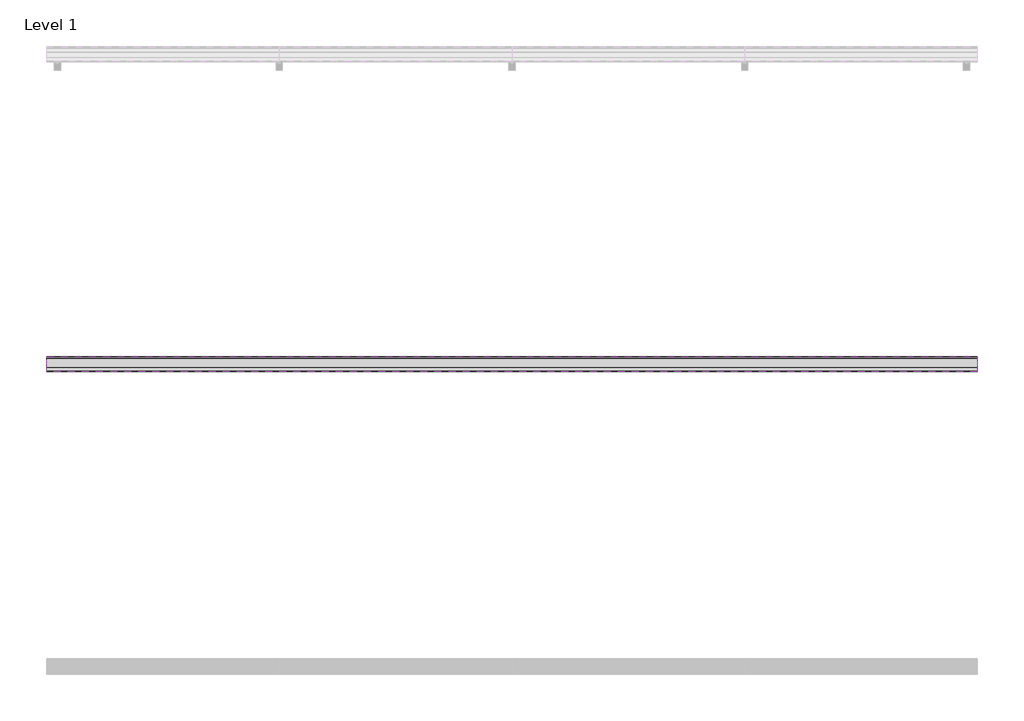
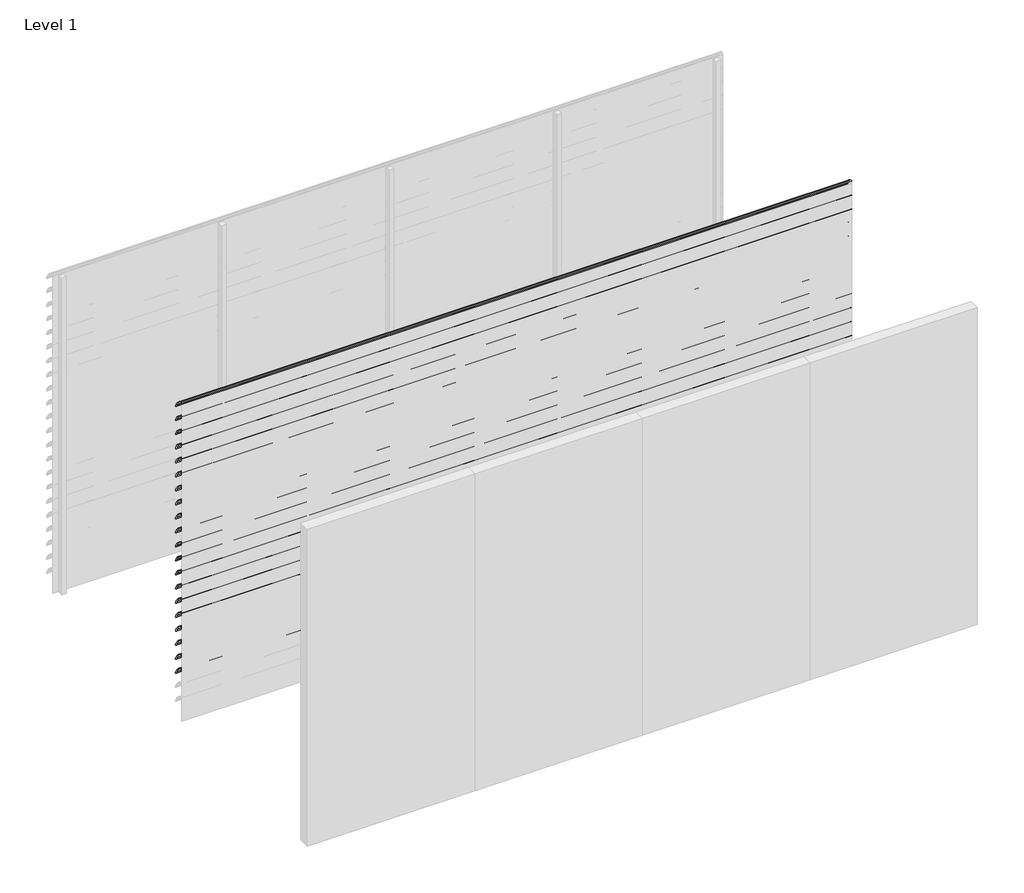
# One storey, part 25 of 57: 20 proxies.
"""IFC4 building model written with IfcOpenShell, lengths in millimetres."""

from ifc_helpers import new_model, si_unit, point, frame, frame_2d, origin, place, context, project, spatial, polyline, circle_curve, trimmed, segment, composite_curve, outline, extrude, element, save

model = new_model("IFC4")

# Units and contexts
model_context = context("Model", 3, world=origin())
ifc_project = project(units=[si_unit("LENGTHUNIT", "METRE", prefix="MILLI")], contexts=[model_context])

# Site, building, storey
site = spatial("IfcSite", under=ifc_project)
building = spatial("IfcBuilding", under=site)
storey = spatial("IfcBuildingStorey", under=building, Name="Level 1", Elevation=0.0)

# Proxies
placement = place(None, origin())
element("IfcBuildingElementProxy", 1, Name="Wall Sweeps", at=placement, inside=storey, context=model_context, shape_type="SweptSolid", body=[
    extrude(outline(composite_curve([segment(trimmed(circle_curve(frame_2d((-31993.7822526, 3016.4913792)), 4.2177474), [point((-31989.6985606, 3017.5462976))], [point((-31993.7822526, 3020.7091266))], False, "CARTESIAN"), True, "CONTINUOUS"), segment(trimmed(circle_curve(frame_2d((-32018.7150834, 2918.2536312)), 105.4456002), [point((-31993.7822526, 3020.7091266))], [point((-31971.7914298, 3012.6832099))], False, "CARTESIAN"), True, "CONTINUOUS"), segment(trimmed(circle_curve(frame_2d((-32061.7199745, 2864.0352476)), 173.7335887), [point((-31971.7914298, 3012.6832099))], [point((-31913.0720121, 2953.9637922))], False, "CARTESIAN"), True, "CONTINUOUS"), segment(trimmed(circle_curve(frame_2d((-32004.9297178, 2902.1860314)), 105.4456002), [point((-31913.0720121, 2953.9637922))], [point((-31903.6249616, 2931.4455765))], False, "CARTESIAN"), True, "CONTINUOUS"), segment(trimmed(circle_curve(frame_2d((-31907.809737, 2930.3307305)), 4.3307305), [point((-31903.6249616, 2931.4455765))], [point((-31909.0769196, 2926.189538))], False, "CARTESIAN"), True, "CONTINUOUS"), segment(polyline([(-31909.0769196, 2926.189538), (-31934.7401984, 2950.9722783)]), True, "CONTINUOUS"), segment(trimmed(circle_curve(frame_2d((-31931.3879574, 2953.2977626)), 4.079877), [point((-31934.7401984, 2950.9722783))], [point((-31930.7310597, 2957.3244091))], False, "CARTESIAN"), True, "CONTINUOUS"), segment(trimmed(circle_curve(frame_2d((-32014.6665585, 2935.2544323)), 86.7885467), [point((-31930.7310597, 2957.3244091))], [point((-31942.3028351, 2983.1683485))], True, "CARTESIAN"), True, "CONTINUOUS"), segment(polyline([(-31942.3028351, 2983.1683485), (-31940.7230099, 2985.9046861)]), True, "CONTINUOUS"), segment(trimmed(circle_curve(frame_2d((-32061.7199745, 2864.0352476)), 171.7335887), [point((-31940.7230099, 2985.9046861))], [point((-31972.7555872, 3010.9289618))], True, "CARTESIAN"), True, "CONTINUOUS"), segment(trimmed(circle_curve(frame_2d((-32018.7150834, 2918.2536312)), 103.4456002), [point((-31972.7555872, 3010.9289618))], [point((-31989.6985606, 3017.5462976))], True, "CARTESIAN"), True, "CONTINUOUS")], self_intersect=False)), frame((0.0, 0.0, 0.0), z_axis=(1.0, 0.0, 0.0), x_axis=(0.0, 1.0, 0.0)), (0.0, 0.0, 1.0), 6000.0),
])
element("IfcBuildingElementProxy", 2, Name="Wall Sweeps", at=placement, inside=storey, context=model_context, shape_type="SweptSolid", body=[
    extrude(outline(composite_curve([segment(trimmed(circle_curve(frame_2d((-31993.7822526, 2883.4913792)), 4.2177474), [point((-31989.6985606, 2884.5462976))], [point((-31993.7822526, 2887.7091266))], False, "CARTESIAN"), True, "CONTINUOUS"), segment(trimmed(circle_curve(frame_2d((-32018.7150834, 2785.2536312)), 105.4456002), [point((-31993.7822526, 2887.7091266))], [point((-31971.7914298, 2879.6832099))], False, "CARTESIAN"), True, "CONTINUOUS"), segment(trimmed(circle_curve(frame_2d((-32061.7199745, 2731.0352476)), 173.7335887), [point((-31971.7914298, 2879.6832099))], [point((-31913.0720121, 2820.9637922))], False, "CARTESIAN"), True, "CONTINUOUS"), segment(trimmed(circle_curve(frame_2d((-32004.9297178, 2769.1860314)), 105.4456002), [point((-31913.0720121, 2820.9637922))], [point((-31903.6249616, 2798.4455765))], False, "CARTESIAN"), True, "CONTINUOUS"), segment(trimmed(circle_curve(frame_2d((-31907.809737, 2797.3307305)), 4.3307305), [point((-31903.6249616, 2798.4455765))], [point((-31909.0769196, 2793.189538))], False, "CARTESIAN"), True, "CONTINUOUS"), segment(polyline([(-31909.0769196, 2793.189538), (-31934.7401984, 2817.9722783)]), True, "CONTINUOUS"), segment(trimmed(circle_curve(frame_2d((-31931.3879574, 2820.2977626)), 4.079877), [point((-31934.7401984, 2817.9722783))], [point((-31930.7310597, 2824.3244091))], False, "CARTESIAN"), True, "CONTINUOUS"), segment(trimmed(circle_curve(frame_2d((-32014.6665585, 2802.2544323)), 86.7885467), [point((-31930.7310597, 2824.3244091))], [point((-31942.3028351, 2850.1683485))], True, "CARTESIAN"), True, "CONTINUOUS"), segment(polyline([(-31942.3028351, 2850.1683485), (-31940.7230099, 2852.9046861)]), True, "CONTINUOUS"), segment(trimmed(circle_curve(frame_2d((-32061.7199745, 2731.0352476)), 171.7335887), [point((-31940.7230099, 2852.9046861))], [point((-31972.7555872, 2877.9289618))], True, "CARTESIAN"), True, "CONTINUOUS"), segment(trimmed(circle_curve(frame_2d((-32018.7150834, 2785.2536312)), 103.4456002), [point((-31972.7555872, 2877.9289618))], [point((-31989.6985606, 2884.5462976))], True, "CARTESIAN"), True, "CONTINUOUS")], self_intersect=False)), frame((0.0, 0.0, 0.0), z_axis=(1.0, 0.0, 0.0), x_axis=(0.0, 1.0, 0.0)), (0.0, 0.0, 1.0), 6000.0),
])
element("IfcBuildingElementProxy", 3, Name="Wall Sweeps", at=placement, inside=storey, context=model_context, shape_type="SweptSolid", body=[
    extrude(outline(composite_curve([segment(trimmed(circle_curve(frame_2d((-31993.7822526, 2750.4913792)), 4.2177474), [point((-31989.6985606, 2751.5462976))], [point((-31993.7822526, 2754.7091266))], False, "CARTESIAN"), True, "CONTINUOUS"), segment(trimmed(circle_curve(frame_2d((-32018.7150834, 2652.2536312)), 105.4456002), [point((-31993.7822526, 2754.7091266))], [point((-31971.7914298, 2746.6832099))], False, "CARTESIAN"), True, "CONTINUOUS"), segment(trimmed(circle_curve(frame_2d((-32061.7199745, 2598.0352476)), 173.7335887), [point((-31971.7914298, 2746.6832099))], [point((-31913.0720121, 2687.9637922))], False, "CARTESIAN"), True, "CONTINUOUS"), segment(trimmed(circle_curve(frame_2d((-32004.9297178, 2636.1860314)), 105.4456002), [point((-31913.0720121, 2687.9637922))], [point((-31903.6249616, 2665.4455765))], False, "CARTESIAN"), True, "CONTINUOUS"), segment(trimmed(circle_curve(frame_2d((-31907.809737, 2664.3307305)), 4.3307305), [point((-31903.6249616, 2665.4455765))], [point((-31909.0769196, 2660.189538))], False, "CARTESIAN"), True, "CONTINUOUS"), segment(polyline([(-31909.0769196, 2660.189538), (-31934.7401984, 2684.9722783)]), True, "CONTINUOUS"), segment(trimmed(circle_curve(frame_2d((-31931.3879574, 2687.2977626)), 4.079877), [point((-31934.7401984, 2684.9722783))], [point((-31930.7310597, 2691.3244091))], False, "CARTESIAN"), True, "CONTINUOUS"), segment(trimmed(circle_curve(frame_2d((-32014.6665585, 2669.2544323)), 86.7885467), [point((-31930.7310597, 2691.3244091))], [point((-31942.3028351, 2717.1683485))], True, "CARTESIAN"), True, "CONTINUOUS"), segment(polyline([(-31942.3028351, 2717.1683485), (-31940.7230099, 2719.9046861)]), True, "CONTINUOUS"), segment(trimmed(circle_curve(frame_2d((-32061.7199745, 2598.0352476)), 171.7335887), [point((-31940.7230099, 2719.9046861))], [point((-31972.7555872, 2744.9289618))], True, "CARTESIAN"), True, "CONTINUOUS"), segment(trimmed(circle_curve(frame_2d((-32018.7150834, 2652.2536312)), 103.4456002), [point((-31972.7555872, 2744.9289618))], [point((-31989.6985606, 2751.5462976))], True, "CARTESIAN"), True, "CONTINUOUS")], self_intersect=False)), frame((0.0, 0.0, 0.0), z_axis=(1.0, 0.0, 0.0), x_axis=(0.0, 1.0, 0.0)), (0.0, 0.0, 1.0), 6000.0),
])
element("IfcBuildingElementProxy", 4, Name="Wall Sweeps", at=placement, inside=storey, context=model_context, shape_type="SweptSolid", body=[
    extrude(outline(composite_curve([segment(trimmed(circle_curve(frame_2d((-31993.7822526, 2617.4913792)), 4.2177474), [point((-31989.6985606, 2618.5462976))], [point((-31993.7822526, 2621.7091266))], False, "CARTESIAN"), True, "CONTINUOUS"), segment(trimmed(circle_curve(frame_2d((-32018.7150834, 2519.2536312)), 105.4456002), [point((-31993.7822526, 2621.7091266))], [point((-31971.7914298, 2613.6832099))], False, "CARTESIAN"), True, "CONTINUOUS"), segment(trimmed(circle_curve(frame_2d((-32061.7199745, 2465.0352476)), 173.7335887), [point((-31971.7914298, 2613.6832099))], [point((-31913.0720121, 2554.9637922))], False, "CARTESIAN"), True, "CONTINUOUS"), segment(trimmed(circle_curve(frame_2d((-32004.9297178, 2503.1860314)), 105.4456002), [point((-31913.0720121, 2554.9637922))], [point((-31903.6249616, 2532.4455765))], False, "CARTESIAN"), True, "CONTINUOUS"), segment(trimmed(circle_curve(frame_2d((-31907.809737, 2531.3307305)), 4.3307305), [point((-31903.6249616, 2532.4455765))], [point((-31909.0769196, 2527.189538))], False, "CARTESIAN"), True, "CONTINUOUS"), segment(polyline([(-31909.0769196, 2527.189538), (-31934.7401984, 2551.9722783)]), True, "CONTINUOUS"), segment(trimmed(circle_curve(frame_2d((-31931.3879574, 2554.2977626)), 4.079877), [point((-31934.7401984, 2551.9722783))], [point((-31930.7310597, 2558.3244091))], False, "CARTESIAN"), True, "CONTINUOUS"), segment(trimmed(circle_curve(frame_2d((-32014.6665585, 2536.2544323)), 86.7885467), [point((-31930.7310597, 2558.3244091))], [point((-31942.3028351, 2584.1683485))], True, "CARTESIAN"), True, "CONTINUOUS"), segment(polyline([(-31942.3028351, 2584.1683485), (-31940.7230099, 2586.9046861)]), True, "CONTINUOUS"), segment(trimmed(circle_curve(frame_2d((-32061.7199745, 2465.0352476)), 171.7335887), [point((-31940.7230099, 2586.9046861))], [point((-31972.7555872, 2611.9289618))], True, "CARTESIAN"), True, "CONTINUOUS"), segment(trimmed(circle_curve(frame_2d((-32018.7150834, 2519.2536312)), 103.4456002), [point((-31972.7555872, 2611.9289618))], [point((-31989.6985606, 2618.5462976))], True, "CARTESIAN"), True, "CONTINUOUS")], self_intersect=False)), frame((0.0, 0.0, 0.0), z_axis=(1.0, 0.0, 0.0), x_axis=(0.0, 1.0, 0.0)), (0.0, 0.0, 1.0), 6000.0),
])
element("IfcBuildingElementProxy", 5, Name="Wall Sweeps", at=placement, inside=storey, context=model_context, shape_type="SweptSolid", body=[
    extrude(outline(composite_curve([segment(trimmed(circle_curve(frame_2d((-31993.7822526, 2484.4913792)), 4.2177474), [point((-31989.6985606, 2485.5462976))], [point((-31993.7822526, 2488.7091266))], False, "CARTESIAN"), True, "CONTINUOUS"), segment(trimmed(circle_curve(frame_2d((-32018.7150834, 2386.2536312)), 105.4456002), [point((-31993.7822526, 2488.7091266))], [point((-31971.7914298, 2480.6832099))], False, "CARTESIAN"), True, "CONTINUOUS"), segment(trimmed(circle_curve(frame_2d((-32061.7199745, 2332.0352476)), 173.7335887), [point((-31971.7914298, 2480.6832099))], [point((-31913.0720121, 2421.9637922))], False, "CARTESIAN"), True, "CONTINUOUS"), segment(trimmed(circle_curve(frame_2d((-32004.9297178, 2370.1860314)), 105.4456002), [point((-31913.0720121, 2421.9637922))], [point((-31903.6249616, 2399.4455765))], False, "CARTESIAN"), True, "CONTINUOUS"), segment(trimmed(circle_curve(frame_2d((-31907.809737, 2398.3307305)), 4.3307305), [point((-31903.6249616, 2399.4455765))], [point((-31909.0769196, 2394.189538))], False, "CARTESIAN"), True, "CONTINUOUS"), segment(polyline([(-31909.0769196, 2394.189538), (-31934.7401984, 2418.9722783)]), True, "CONTINUOUS"), segment(trimmed(circle_curve(frame_2d((-31931.3879574, 2421.2977626)), 4.079877), [point((-31934.7401984, 2418.9722783))], [point((-31930.7310597, 2425.3244091))], False, "CARTESIAN"), True, "CONTINUOUS"), segment(trimmed(circle_curve(frame_2d((-32014.6665585, 2403.2544323)), 86.7885467), [point((-31930.7310597, 2425.3244091))], [point((-31942.3028351, 2451.1683485))], True, "CARTESIAN"), True, "CONTINUOUS"), segment(polyline([(-31942.3028351, 2451.1683485), (-31940.7230099, 2453.9046861)]), True, "CONTINUOUS"), segment(trimmed(circle_curve(frame_2d((-32061.7199745, 2332.0352476)), 171.7335887), [point((-31940.7230099, 2453.9046861))], [point((-31972.7555872, 2478.9289618))], True, "CARTESIAN"), True, "CONTINUOUS"), segment(trimmed(circle_curve(frame_2d((-32018.7150834, 2386.2536312)), 103.4456002), [point((-31972.7555872, 2478.9289618))], [point((-31989.6985606, 2485.5462976))], True, "CARTESIAN"), True, "CONTINUOUS")], self_intersect=False)), frame((0.0, 0.0, 0.0), z_axis=(1.0, 0.0, 0.0), x_axis=(0.0, 1.0, 0.0)), (0.0, 0.0, 1.0), 6000.0),
])
element("IfcBuildingElementProxy", 6, Name="Wall Sweeps", at=placement, inside=storey, context=model_context, shape_type="SweptSolid", body=[
    extrude(outline(composite_curve([segment(trimmed(circle_curve(frame_2d((-31993.7822526, 2351.4913792)), 4.2177474), [point((-31989.6985606, 2352.5462976))], [point((-31993.7822526, 2355.7091266))], False, "CARTESIAN"), True, "CONTINUOUS"), segment(trimmed(circle_curve(frame_2d((-32018.7150834, 2253.2536312)), 105.4456002), [point((-31993.7822526, 2355.7091266))], [point((-31971.7914298, 2347.6832099))], False, "CARTESIAN"), True, "CONTINUOUS"), segment(trimmed(circle_curve(frame_2d((-32061.7199745, 2199.0352476)), 173.7335887), [point((-31971.7914298, 2347.6832099))], [point((-31913.0720121, 2288.9637922))], False, "CARTESIAN"), True, "CONTINUOUS"), segment(trimmed(circle_curve(frame_2d((-32004.9297178, 2237.1860314)), 105.4456002), [point((-31913.0720121, 2288.9637922))], [point((-31903.6249616, 2266.4455765))], False, "CARTESIAN"), True, "CONTINUOUS"), segment(trimmed(circle_curve(frame_2d((-31907.809737, 2265.3307305)), 4.3307305), [point((-31903.6249616, 2266.4455765))], [point((-31909.0769196, 2261.189538))], False, "CARTESIAN"), True, "CONTINUOUS"), segment(polyline([(-31909.0769196, 2261.189538), (-31934.7401984, 2285.9722783)]), True, "CONTINUOUS"), segment(trimmed(circle_curve(frame_2d((-31931.3879574, 2288.2977626)), 4.079877), [point((-31934.7401984, 2285.9722783))], [point((-31930.7310597, 2292.3244091))], False, "CARTESIAN"), True, "CONTINUOUS"), segment(trimmed(circle_curve(frame_2d((-32014.6665585, 2270.2544323)), 86.7885467), [point((-31930.7310597, 2292.3244091))], [point((-31942.3028351, 2318.1683485))], True, "CARTESIAN"), True, "CONTINUOUS"), segment(polyline([(-31942.3028351, 2318.1683485), (-31940.7230099, 2320.9046861)]), True, "CONTINUOUS"), segment(trimmed(circle_curve(frame_2d((-32061.7199745, 2199.0352476)), 171.7335887), [point((-31940.7230099, 2320.9046861))], [point((-31972.7555872, 2345.9289618))], True, "CARTESIAN"), True, "CONTINUOUS"), segment(trimmed(circle_curve(frame_2d((-32018.7150834, 2253.2536312)), 103.4456002), [point((-31972.7555872, 2345.9289618))], [point((-31989.6985606, 2352.5462976))], True, "CARTESIAN"), True, "CONTINUOUS")], self_intersect=False)), frame((0.0, 0.0, 0.0), z_axis=(1.0, 0.0, 0.0), x_axis=(0.0, 1.0, 0.0)), (0.0, 0.0, 1.0), 6000.0),
])
element("IfcBuildingElementProxy", 7, Name="Wall Sweeps", at=placement, inside=storey, context=model_context, shape_type="SweptSolid", body=[
    extrude(outline(composite_curve([segment(trimmed(circle_curve(frame_2d((-31993.7822526, 2218.4913792)), 4.2177474), [point((-31989.6985606, 2219.5462976))], [point((-31993.7822526, 2222.7091266))], False, "CARTESIAN"), True, "CONTINUOUS"), segment(trimmed(circle_curve(frame_2d((-32018.7150834, 2120.2536312)), 105.4456002), [point((-31993.7822526, 2222.7091266))], [point((-31971.7914298, 2214.6832099))], False, "CARTESIAN"), True, "CONTINUOUS"), segment(trimmed(circle_curve(frame_2d((-32061.7199745, 2066.0352476)), 173.7335887), [point((-31971.7914298, 2214.6832099))], [point((-31913.0720121, 2155.9637922))], False, "CARTESIAN"), True, "CONTINUOUS"), segment(trimmed(circle_curve(frame_2d((-32004.9297178, 2104.1860314)), 105.4456002), [point((-31913.0720121, 2155.9637922))], [point((-31903.6249616, 2133.4455765))], False, "CARTESIAN"), True, "CONTINUOUS"), segment(trimmed(circle_curve(frame_2d((-31907.809737, 2132.3307305)), 4.3307305), [point((-31903.6249616, 2133.4455765))], [point((-31909.0769196, 2128.189538))], False, "CARTESIAN"), True, "CONTINUOUS"), segment(polyline([(-31909.0769196, 2128.189538), (-31934.7401984, 2152.9722783)]), True, "CONTINUOUS"), segment(trimmed(circle_curve(frame_2d((-31931.3879574, 2155.2977626)), 4.079877), [point((-31934.7401984, 2152.9722783))], [point((-31930.7310597, 2159.3244091))], False, "CARTESIAN"), True, "CONTINUOUS"), segment(trimmed(circle_curve(frame_2d((-32014.6665585, 2137.2544323)), 86.7885467), [point((-31930.7310597, 2159.3244091))], [point((-31942.3028351, 2185.1683485))], True, "CARTESIAN"), True, "CONTINUOUS"), segment(polyline([(-31942.3028351, 2185.1683485), (-31940.7230099, 2187.9046861)]), True, "CONTINUOUS"), segment(trimmed(circle_curve(frame_2d((-32061.7199745, 2066.0352476)), 171.7335887), [point((-31940.7230099, 2187.9046861))], [point((-31972.7555872, 2212.9289618))], True, "CARTESIAN"), True, "CONTINUOUS"), segment(trimmed(circle_curve(frame_2d((-32018.7150834, 2120.2536312)), 103.4456002), [point((-31972.7555872, 2212.9289618))], [point((-31989.6985606, 2219.5462976))], True, "CARTESIAN"), True, "CONTINUOUS")], self_intersect=False)), frame((0.0, 0.0, 0.0), z_axis=(1.0, 0.0, 0.0), x_axis=(0.0, 1.0, 0.0)), (0.0, 0.0, 1.0), 6000.0),
])
element("IfcBuildingElementProxy", 8, Name="Wall Sweeps", at=placement, inside=storey, context=model_context, shape_type="SweptSolid", body=[
    extrude(outline(composite_curve([segment(trimmed(circle_curve(frame_2d((-31993.7822526, 2085.4913792)), 4.2177474), [point((-31989.6985606, 2086.5462976))], [point((-31993.7822526, 2089.7091266))], False, "CARTESIAN"), True, "CONTINUOUS"), segment(trimmed(circle_curve(frame_2d((-32018.7150834, 1987.2536312)), 105.4456002), [point((-31993.7822526, 2089.7091266))], [point((-31971.7914298, 2081.6832099))], False, "CARTESIAN"), True, "CONTINUOUS"), segment(trimmed(circle_curve(frame_2d((-32061.7199745, 1933.0352476)), 173.7335887), [point((-31971.7914298, 2081.6832099))], [point((-31913.0720121, 2022.9637922))], False, "CARTESIAN"), True, "CONTINUOUS"), segment(trimmed(circle_curve(frame_2d((-32004.9297178, 1971.1860314)), 105.4456002), [point((-31913.0720121, 2022.9637922))], [point((-31903.6249616, 2000.4455765))], False, "CARTESIAN"), True, "CONTINUOUS"), segment(trimmed(circle_curve(frame_2d((-31907.809737, 1999.3307305)), 4.3307305), [point((-31903.6249616, 2000.4455765))], [point((-31909.0769196, 1995.189538))], False, "CARTESIAN"), True, "CONTINUOUS"), segment(polyline([(-31909.0769196, 1995.189538), (-31934.7401984, 2019.9722783)]), True, "CONTINUOUS"), segment(trimmed(circle_curve(frame_2d((-31931.3879574, 2022.2977626)), 4.079877), [point((-31934.7401984, 2019.9722783))], [point((-31930.7310597, 2026.3244091))], False, "CARTESIAN"), True, "CONTINUOUS"), segment(trimmed(circle_curve(frame_2d((-32014.6665585, 2004.2544323)), 86.7885467), [point((-31930.7310597, 2026.3244091))], [point((-31942.3028351, 2052.1683485))], True, "CARTESIAN"), True, "CONTINUOUS"), segment(polyline([(-31942.3028351, 2052.1683485), (-31940.7230099, 2054.9046861)]), True, "CONTINUOUS"), segment(trimmed(circle_curve(frame_2d((-32061.7199745, 1933.0352476)), 171.7335887), [point((-31940.7230099, 2054.9046861))], [point((-31972.7555872, 2079.9289618))], True, "CARTESIAN"), True, "CONTINUOUS"), segment(trimmed(circle_curve(frame_2d((-32018.7150834, 1987.2536312)), 103.4456002), [point((-31972.7555872, 2079.9289618))], [point((-31989.6985606, 2086.5462976))], True, "CARTESIAN"), True, "CONTINUOUS")], self_intersect=False)), frame((0.0, 0.0, 0.0), z_axis=(1.0, 0.0, 0.0), x_axis=(0.0, 1.0, 0.0)), (0.0, 0.0, 1.0), 6000.0),
])
element("IfcBuildingElementProxy", 9, Name="Wall Sweeps", at=placement, inside=storey, context=model_context, shape_type="SweptSolid", body=[
    extrude(outline(composite_curve([segment(trimmed(circle_curve(frame_2d((-31993.7822526, 1952.4913792)), 4.2177474), [point((-31989.6985606, 1953.5462976))], [point((-31993.7822526, 1956.7091266))], False, "CARTESIAN"), True, "CONTINUOUS"), segment(trimmed(circle_curve(frame_2d((-32018.7150834, 1854.2536312)), 105.4456002), [point((-31993.7822526, 1956.7091266))], [point((-31971.7914298, 1948.6832099))], False, "CARTESIAN"), True, "CONTINUOUS"), segment(trimmed(circle_curve(frame_2d((-32061.7199745, 1800.0352476)), 173.7335887), [point((-31971.7914298, 1948.6832099))], [point((-31913.0720121, 1889.9637922))], False, "CARTESIAN"), True, "CONTINUOUS"), segment(trimmed(circle_curve(frame_2d((-32004.9297178, 1838.1860314)), 105.4456002), [point((-31913.0720121, 1889.9637922))], [point((-31903.6249616, 1867.4455765))], False, "CARTESIAN"), True, "CONTINUOUS"), segment(trimmed(circle_curve(frame_2d((-31907.809737, 1866.3307305)), 4.3307305), [point((-31903.6249616, 1867.4455765))], [point((-31909.0769196, 1862.189538))], False, "CARTESIAN"), True, "CONTINUOUS"), segment(polyline([(-31909.0769196, 1862.189538), (-31934.7401984, 1886.9722783)]), True, "CONTINUOUS"), segment(trimmed(circle_curve(frame_2d((-31931.3879574, 1889.2977626)), 4.079877), [point((-31934.7401984, 1886.9722783))], [point((-31930.7310597, 1893.3244091))], False, "CARTESIAN"), True, "CONTINUOUS"), segment(trimmed(circle_curve(frame_2d((-32014.6665585, 1871.2544323)), 86.7885467), [point((-31930.7310597, 1893.3244091))], [point((-31942.3028351, 1919.1683485))], True, "CARTESIAN"), True, "CONTINUOUS"), segment(polyline([(-31942.3028351, 1919.1683485), (-31940.7230099, 1921.9046861)]), True, "CONTINUOUS"), segment(trimmed(circle_curve(frame_2d((-32061.7199745, 1800.0352476)), 171.7335887), [point((-31940.7230099, 1921.9046861))], [point((-31972.7555872, 1946.9289618))], True, "CARTESIAN"), True, "CONTINUOUS"), segment(trimmed(circle_curve(frame_2d((-32018.7150834, 1854.2536312)), 103.4456002), [point((-31972.7555872, 1946.9289618))], [point((-31989.6985606, 1953.5462976))], True, "CARTESIAN"), True, "CONTINUOUS")], self_intersect=False)), frame((0.0, 0.0, 0.0), z_axis=(1.0, 0.0, 0.0), x_axis=(0.0, 1.0, 0.0)), (0.0, 0.0, 1.0), 6000.0),
])
element("IfcBuildingElementProxy", 10, Name="Wall Sweeps", at=placement, inside=storey, context=model_context, shape_type="SweptSolid", body=[
    extrude(outline(composite_curve([segment(trimmed(circle_curve(frame_2d((-31993.7822526, 1819.4913792)), 4.2177474), [point((-31989.6985606, 1820.5462976))], [point((-31993.7822526, 1823.7091266))], False, "CARTESIAN"), True, "CONTINUOUS"), segment(trimmed(circle_curve(frame_2d((-32018.7150834, 1721.2536312)), 105.4456002), [point((-31993.7822526, 1823.7091266))], [point((-31971.7914298, 1815.6832099))], False, "CARTESIAN"), True, "CONTINUOUS"), segment(trimmed(circle_curve(frame_2d((-32061.7199745, 1667.0352476)), 173.7335887), [point((-31971.7914298, 1815.6832099))], [point((-31913.0720121, 1756.9637922))], False, "CARTESIAN"), True, "CONTINUOUS"), segment(trimmed(circle_curve(frame_2d((-32004.9297178, 1705.1860314)), 105.4456002), [point((-31913.0720121, 1756.9637922))], [point((-31903.6249616, 1734.4455765))], False, "CARTESIAN"), True, "CONTINUOUS"), segment(trimmed(circle_curve(frame_2d((-31907.809737, 1733.3307305)), 4.3307305), [point((-31903.6249616, 1734.4455765))], [point((-31909.0769196, 1729.189538))], False, "CARTESIAN"), True, "CONTINUOUS"), segment(polyline([(-31909.0769196, 1729.189538), (-31934.7401984, 1753.9722783)]), True, "CONTINUOUS"), segment(trimmed(circle_curve(frame_2d((-31931.3879574, 1756.2977626)), 4.079877), [point((-31934.7401984, 1753.9722783))], [point((-31930.7310597, 1760.3244091))], False, "CARTESIAN"), True, "CONTINUOUS"), segment(trimmed(circle_curve(frame_2d((-32014.6665585, 1738.2544323)), 86.7885467), [point((-31930.7310597, 1760.3244091))], [point((-31942.3028351, 1786.1683485))], True, "CARTESIAN"), True, "CONTINUOUS"), segment(polyline([(-31942.3028351, 1786.1683485), (-31940.7230099, 1788.9046861)]), True, "CONTINUOUS"), segment(trimmed(circle_curve(frame_2d((-32061.7199745, 1667.0352476)), 171.7335887), [point((-31940.7230099, 1788.9046861))], [point((-31972.7555872, 1813.9289618))], True, "CARTESIAN"), True, "CONTINUOUS"), segment(trimmed(circle_curve(frame_2d((-32018.7150834, 1721.2536312)), 103.4456002), [point((-31972.7555872, 1813.9289618))], [point((-31989.6985606, 1820.5462976))], True, "CARTESIAN"), True, "CONTINUOUS")], self_intersect=False)), frame((0.0, 0.0, 0.0), z_axis=(1.0, 0.0, 0.0), x_axis=(0.0, 1.0, 0.0)), (0.0, 0.0, 1.0), 6000.0),
])
element("IfcBuildingElementProxy", 11, Name="Wall Sweeps", at=placement, inside=storey, context=model_context, shape_type="SweptSolid", body=[
    extrude(outline(composite_curve([segment(trimmed(circle_curve(frame_2d((-31993.7822526, 1686.4913792)), 4.2177474), [point((-31989.6985606, 1687.5462976))], [point((-31993.7822526, 1690.7091266))], False, "CARTESIAN"), True, "CONTINUOUS"), segment(trimmed(circle_curve(frame_2d((-32018.7150834, 1588.2536312)), 105.4456002), [point((-31993.7822526, 1690.7091266))], [point((-31971.7914298, 1682.6832099))], False, "CARTESIAN"), True, "CONTINUOUS"), segment(trimmed(circle_curve(frame_2d((-32061.7199745, 1534.0352476)), 173.7335887), [point((-31971.7914298, 1682.6832099))], [point((-31913.0720121, 1623.9637922))], False, "CARTESIAN"), True, "CONTINUOUS"), segment(trimmed(circle_curve(frame_2d((-32004.9297178, 1572.1860314)), 105.4456002), [point((-31913.0720121, 1623.9637922))], [point((-31903.6249616, 1601.4455765))], False, "CARTESIAN"), True, "CONTINUOUS"), segment(trimmed(circle_curve(frame_2d((-31907.809737, 1600.3307305)), 4.3307305), [point((-31903.6249616, 1601.4455765))], [point((-31909.0769196, 1596.189538))], False, "CARTESIAN"), True, "CONTINUOUS"), segment(polyline([(-31909.0769196, 1596.189538), (-31934.7401984, 1620.9722783)]), True, "CONTINUOUS"), segment(trimmed(circle_curve(frame_2d((-31931.3879574, 1623.2977626)), 4.079877), [point((-31934.7401984, 1620.9722783))], [point((-31930.7310597, 1627.3244091))], False, "CARTESIAN"), True, "CONTINUOUS"), segment(trimmed(circle_curve(frame_2d((-32014.6665585, 1605.2544323)), 86.7885467), [point((-31930.7310597, 1627.3244091))], [point((-31942.3028351, 1653.1683485))], True, "CARTESIAN"), True, "CONTINUOUS"), segment(polyline([(-31942.3028351, 1653.1683485), (-31940.7230099, 1655.9046861)]), True, "CONTINUOUS"), segment(trimmed(circle_curve(frame_2d((-32061.7199745, 1534.0352476)), 171.7335887), [point((-31940.7230099, 1655.9046861))], [point((-31972.7555872, 1680.9289618))], True, "CARTESIAN"), True, "CONTINUOUS"), segment(trimmed(circle_curve(frame_2d((-32018.7150834, 1588.2536312)), 103.4456002), [point((-31972.7555872, 1680.9289618))], [point((-31989.6985606, 1687.5462976))], True, "CARTESIAN"), True, "CONTINUOUS")], self_intersect=False)), frame((0.0, 0.0, 0.0), z_axis=(1.0, 0.0, 0.0), x_axis=(0.0, 1.0, 0.0)), (0.0, 0.0, 1.0), 6000.0),
])
element("IfcBuildingElementProxy", 12, Name="Wall Sweeps", at=placement, inside=storey, context=model_context, shape_type="SweptSolid", body=[
    extrude(outline(composite_curve([segment(trimmed(circle_curve(frame_2d((-31993.7822526, 1553.4913792)), 4.2177474), [point((-31989.6985606, 1554.5462976))], [point((-31993.7822526, 1557.7091266))], False, "CARTESIAN"), True, "CONTINUOUS"), segment(trimmed(circle_curve(frame_2d((-32018.7150834, 1455.2536312)), 105.4456002), [point((-31993.7822526, 1557.7091266))], [point((-31971.7914298, 1549.6832099))], False, "CARTESIAN"), True, "CONTINUOUS"), segment(trimmed(circle_curve(frame_2d((-32061.7199745, 1401.0352476)), 173.7335887), [point((-31971.7914298, 1549.6832099))], [point((-31913.0720121, 1490.9637922))], False, "CARTESIAN"), True, "CONTINUOUS"), segment(trimmed(circle_curve(frame_2d((-32004.9297178, 1439.1860314)), 105.4456002), [point((-31913.0720121, 1490.9637922))], [point((-31903.6249616, 1468.4455765))], False, "CARTESIAN"), True, "CONTINUOUS"), segment(trimmed(circle_curve(frame_2d((-31907.809737, 1467.3307305)), 4.3307305), [point((-31903.6249616, 1468.4455765))], [point((-31909.0769196, 1463.189538))], False, "CARTESIAN"), True, "CONTINUOUS"), segment(polyline([(-31909.0769196, 1463.189538), (-31934.7401984, 1487.9722783)]), True, "CONTINUOUS"), segment(trimmed(circle_curve(frame_2d((-31931.3879574, 1490.2977626)), 4.079877), [point((-31934.7401984, 1487.9722783))], [point((-31930.7310597, 1494.3244091))], False, "CARTESIAN"), True, "CONTINUOUS"), segment(trimmed(circle_curve(frame_2d((-32014.6665585, 1472.2544323)), 86.7885467), [point((-31930.7310597, 1494.3244091))], [point((-31942.3028351, 1520.1683485))], True, "CARTESIAN"), True, "CONTINUOUS"), segment(polyline([(-31942.3028351, 1520.1683485), (-31940.7230099, 1522.9046861)]), True, "CONTINUOUS"), segment(trimmed(circle_curve(frame_2d((-32061.7199745, 1401.0352476)), 171.7335887), [point((-31940.7230099, 1522.9046861))], [point((-31972.7555872, 1547.9289618))], True, "CARTESIAN"), True, "CONTINUOUS"), segment(trimmed(circle_curve(frame_2d((-32018.7150834, 1455.2536312)), 103.4456002), [point((-31972.7555872, 1547.9289618))], [point((-31989.6985606, 1554.5462976))], True, "CARTESIAN"), True, "CONTINUOUS")], self_intersect=False)), frame((0.0, 0.0, 0.0), z_axis=(1.0, 0.0, 0.0), x_axis=(0.0, 1.0, 0.0)), (0.0, 0.0, 1.0), 6000.0),
])
element("IfcBuildingElementProxy", 13, Name="Wall Sweeps", at=placement, inside=storey, context=model_context, shape_type="SweptSolid", body=[
    extrude(outline(composite_curve([segment(trimmed(circle_curve(frame_2d((-31993.7822526, 1420.4913792)), 4.2177474), [point((-31989.6985606, 1421.5462976))], [point((-31993.7822526, 1424.7091266))], False, "CARTESIAN"), True, "CONTINUOUS"), segment(trimmed(circle_curve(frame_2d((-32018.7150834, 1322.2536312)), 105.4456002), [point((-31993.7822526, 1424.7091266))], [point((-31971.7914298, 1416.6832099))], False, "CARTESIAN"), True, "CONTINUOUS"), segment(trimmed(circle_curve(frame_2d((-32061.7199745, 1268.0352476)), 173.7335887), [point((-31971.7914298, 1416.6832099))], [point((-31913.0720121, 1357.9637922))], False, "CARTESIAN"), True, "CONTINUOUS"), segment(trimmed(circle_curve(frame_2d((-32004.9297178, 1306.1860314)), 105.4456002), [point((-31913.0720121, 1357.9637922))], [point((-31903.6249616, 1335.4455765))], False, "CARTESIAN"), True, "CONTINUOUS"), segment(trimmed(circle_curve(frame_2d((-31907.809737, 1334.3307305)), 4.3307305), [point((-31903.6249616, 1335.4455765))], [point((-31909.0769196, 1330.189538))], False, "CARTESIAN"), True, "CONTINUOUS"), segment(polyline([(-31909.0769196, 1330.189538), (-31934.7401984, 1354.9722783)]), True, "CONTINUOUS"), segment(trimmed(circle_curve(frame_2d((-31931.3879574, 1357.2977626)), 4.079877), [point((-31934.7401984, 1354.9722783))], [point((-31930.7310597, 1361.3244091))], False, "CARTESIAN"), True, "CONTINUOUS"), segment(trimmed(circle_curve(frame_2d((-32014.6665585, 1339.2544323)), 86.7885467), [point((-31930.7310597, 1361.3244091))], [point((-31942.3028351, 1387.1683485))], True, "CARTESIAN"), True, "CONTINUOUS"), segment(polyline([(-31942.3028351, 1387.1683485), (-31940.7230099, 1389.9046861)]), True, "CONTINUOUS"), segment(trimmed(circle_curve(frame_2d((-32061.7199745, 1268.0352476)), 171.7335887), [point((-31940.7230099, 1389.9046861))], [point((-31972.7555872, 1414.9289618))], True, "CARTESIAN"), True, "CONTINUOUS"), segment(trimmed(circle_curve(frame_2d((-32018.7150834, 1322.2536312)), 103.4456002), [point((-31972.7555872, 1414.9289618))], [point((-31989.6985606, 1421.5462976))], True, "CARTESIAN"), True, "CONTINUOUS")], self_intersect=False)), frame((0.0, 0.0, 0.0), z_axis=(1.0, 0.0, 0.0), x_axis=(0.0, 1.0, 0.0)), (0.0, 0.0, 1.0), 6000.0),
])
element("IfcBuildingElementProxy", 14, Name="Wall Sweeps", at=placement, inside=storey, context=model_context, shape_type="SweptSolid", body=[
    extrude(outline(composite_curve([segment(trimmed(circle_curve(frame_2d((-31993.7822526, 1287.4913792)), 4.2177474), [point((-31989.6985606, 1288.5462976))], [point((-31993.7822526, 1291.7091266))], False, "CARTESIAN"), True, "CONTINUOUS"), segment(trimmed(circle_curve(frame_2d((-32018.7150834, 1189.2536312)), 105.4456002), [point((-31993.7822526, 1291.7091266))], [point((-31971.7914298, 1283.6832099))], False, "CARTESIAN"), True, "CONTINUOUS"), segment(trimmed(circle_curve(frame_2d((-32061.7199745, 1135.0352476)), 173.7335887), [point((-31971.7914298, 1283.6832099))], [point((-31913.0720121, 1224.9637922))], False, "CARTESIAN"), True, "CONTINUOUS"), segment(trimmed(circle_curve(frame_2d((-32004.9297178, 1173.1860314)), 105.4456002), [point((-31913.0720121, 1224.9637922))], [point((-31903.6249616, 1202.4455765))], False, "CARTESIAN"), True, "CONTINUOUS"), segment(trimmed(circle_curve(frame_2d((-31907.809737, 1201.3307305)), 4.3307305), [point((-31903.6249616, 1202.4455765))], [point((-31909.0769196, 1197.189538))], False, "CARTESIAN"), True, "CONTINUOUS"), segment(polyline([(-31909.0769196, 1197.189538), (-31934.7401984, 1221.9722783)]), True, "CONTINUOUS"), segment(trimmed(circle_curve(frame_2d((-31931.3879574, 1224.2977626)), 4.079877), [point((-31934.7401984, 1221.9722783))], [point((-31930.7310597, 1228.3244091))], False, "CARTESIAN"), True, "CONTINUOUS"), segment(trimmed(circle_curve(frame_2d((-32014.6665585, 1206.2544323)), 86.7885467), [point((-31930.7310597, 1228.3244091))], [point((-31942.3028351, 1254.1683485))], True, "CARTESIAN"), True, "CONTINUOUS"), segment(polyline([(-31942.3028351, 1254.1683485), (-31940.7230099, 1256.9046861)]), True, "CONTINUOUS"), segment(trimmed(circle_curve(frame_2d((-32061.7199745, 1135.0352476)), 171.7335887), [point((-31940.7230099, 1256.9046861))], [point((-31972.7555872, 1281.9289618))], True, "CARTESIAN"), True, "CONTINUOUS"), segment(trimmed(circle_curve(frame_2d((-32018.7150834, 1189.2536312)), 103.4456002), [point((-31972.7555872, 1281.9289618))], [point((-31989.6985606, 1288.5462976))], True, "CARTESIAN"), True, "CONTINUOUS")], self_intersect=False)), frame((0.0, 0.0, 0.0), z_axis=(1.0, 0.0, 0.0), x_axis=(0.0, 1.0, 0.0)), (0.0, 0.0, 1.0), 6000.0),
])
element("IfcBuildingElementProxy", 15, Name="Wall Sweeps", at=placement, inside=storey, context=model_context, shape_type="SweptSolid", body=[
    extrude(outline(composite_curve([segment(trimmed(circle_curve(frame_2d((-31993.7822526, 1154.4913792)), 4.2177474), [point((-31989.6985606, 1155.5462976))], [point((-31993.7822526, 1158.7091266))], False, "CARTESIAN"), True, "CONTINUOUS"), segment(trimmed(circle_curve(frame_2d((-32018.7150834, 1056.2536312)), 105.4456002), [point((-31993.7822526, 1158.7091266))], [point((-31971.7914298, 1150.6832099))], False, "CARTESIAN"), True, "CONTINUOUS"), segment(trimmed(circle_curve(frame_2d((-32061.7199745, 1002.0352476)), 173.7335887), [point((-31971.7914298, 1150.6832099))], [point((-31913.0720121, 1091.9637922))], False, "CARTESIAN"), True, "CONTINUOUS"), segment(trimmed(circle_curve(frame_2d((-32004.9297178, 1040.1860314)), 105.4456002), [point((-31913.0720121, 1091.9637922))], [point((-31903.6249616, 1069.4455765))], False, "CARTESIAN"), True, "CONTINUOUS"), segment(trimmed(circle_curve(frame_2d((-31907.809737, 1068.3307305)), 4.3307305), [point((-31903.6249616, 1069.4455765))], [point((-31909.0769196, 1064.189538))], False, "CARTESIAN"), True, "CONTINUOUS"), segment(polyline([(-31909.0769196, 1064.189538), (-31934.7401984, 1088.9722783)]), True, "CONTINUOUS"), segment(trimmed(circle_curve(frame_2d((-31931.3879574, 1091.2977626)), 4.079877), [point((-31934.7401984, 1088.9722783))], [point((-31930.7310597, 1095.3244091))], False, "CARTESIAN"), True, "CONTINUOUS"), segment(trimmed(circle_curve(frame_2d((-32014.6665585, 1073.2544323)), 86.7885467), [point((-31930.7310597, 1095.3244091))], [point((-31942.3028351, 1121.1683485))], True, "CARTESIAN"), True, "CONTINUOUS"), segment(polyline([(-31942.3028351, 1121.1683485), (-31940.7230099, 1123.9046861)]), True, "CONTINUOUS"), segment(trimmed(circle_curve(frame_2d((-32061.7199745, 1002.0352476)), 171.7335887), [point((-31940.7230099, 1123.9046861))], [point((-31972.7555872, 1148.9289618))], True, "CARTESIAN"), True, "CONTINUOUS"), segment(trimmed(circle_curve(frame_2d((-32018.7150834, 1056.2536312)), 103.4456002), [point((-31972.7555872, 1148.9289618))], [point((-31989.6985606, 1155.5462976))], True, "CARTESIAN"), True, "CONTINUOUS")], self_intersect=False)), frame((0.0, 0.0, 0.0), z_axis=(1.0, 0.0, 0.0), x_axis=(0.0, 1.0, 0.0)), (0.0, 0.0, 1.0), 6000.0),
])
element("IfcBuildingElementProxy", 16, Name="Wall Sweeps", at=placement, inside=storey, context=model_context, shape_type="SweptSolid", body=[
    extrude(outline(composite_curve([segment(trimmed(circle_curve(frame_2d((-31993.7822526, 1021.4913792)), 4.2177474), [point((-31989.6985606, 1022.5462976))], [point((-31993.7822526, 1025.7091266))], False, "CARTESIAN"), True, "CONTINUOUS"), segment(trimmed(circle_curve(frame_2d((-32018.7150834, 923.2536312)), 105.4456002), [point((-31993.7822526, 1025.7091266))], [point((-31971.7914298, 1017.6832099))], False, "CARTESIAN"), True, "CONTINUOUS"), segment(trimmed(circle_curve(frame_2d((-32061.7199745, 869.0352476)), 173.7335887), [point((-31971.7914298, 1017.6832099))], [point((-31913.0720121, 958.9637922))], False, "CARTESIAN"), True, "CONTINUOUS"), segment(trimmed(circle_curve(frame_2d((-32004.9297178, 907.1860314)), 105.4456002), [point((-31913.0720121, 958.9637922))], [point((-31903.6249616, 936.4455765))], False, "CARTESIAN"), True, "CONTINUOUS"), segment(trimmed(circle_curve(frame_2d((-31907.809737, 935.3307305)), 4.3307305), [point((-31903.6249616, 936.4455765))], [point((-31909.0769196, 931.189538))], False, "CARTESIAN"), True, "CONTINUOUS"), segment(polyline([(-31909.0769196, 931.189538), (-31934.7401984, 955.9722783)]), True, "CONTINUOUS"), segment(trimmed(circle_curve(frame_2d((-31931.3879574, 958.2977626)), 4.079877), [point((-31934.7401984, 955.9722783))], [point((-31930.7310597, 962.3244091))], False, "CARTESIAN"), True, "CONTINUOUS"), segment(trimmed(circle_curve(frame_2d((-32014.6665585, 940.2544323)), 86.7885467), [point((-31930.7310597, 962.3244091))], [point((-31942.3028351, 988.1683485))], True, "CARTESIAN"), True, "CONTINUOUS"), segment(polyline([(-31942.3028351, 988.1683485), (-31940.7230099, 990.9046861)]), True, "CONTINUOUS"), segment(trimmed(circle_curve(frame_2d((-32061.7199745, 869.0352476)), 171.7335887), [point((-31940.7230099, 990.9046861))], [point((-31972.7555872, 1015.9289618))], True, "CARTESIAN"), True, "CONTINUOUS"), segment(trimmed(circle_curve(frame_2d((-32018.7150834, 923.2536312)), 103.4456002), [point((-31972.7555872, 1015.9289618))], [point((-31989.6985606, 1022.5462976))], True, "CARTESIAN"), True, "CONTINUOUS")], self_intersect=False)), frame((0.0, 0.0, 0.0), z_axis=(1.0, 0.0, 0.0), x_axis=(0.0, 1.0, 0.0)), (0.0, 0.0, 1.0), 6000.0),
])
element("IfcBuildingElementProxy", 17, Name="Wall Sweeps", at=placement, inside=storey, context=model_context, shape_type="SweptSolid", body=[
    extrude(outline(composite_curve([segment(trimmed(circle_curve(frame_2d((-31993.7822526, 888.4913792)), 4.2177474), [point((-31989.6985606, 889.5462976))], [point((-31993.7822526, 892.7091266))], False, "CARTESIAN"), True, "CONTINUOUS"), segment(trimmed(circle_curve(frame_2d((-32018.7150834, 790.2536312)), 105.4456002), [point((-31993.7822526, 892.7091266))], [point((-31971.7914298, 884.6832099))], False, "CARTESIAN"), True, "CONTINUOUS"), segment(trimmed(circle_curve(frame_2d((-32061.7199745, 736.0352476)), 173.7335887), [point((-31971.7914298, 884.6832099))], [point((-31913.0720121, 825.9637922))], False, "CARTESIAN"), True, "CONTINUOUS"), segment(trimmed(circle_curve(frame_2d((-32004.9297178, 774.1860314)), 105.4456002), [point((-31913.0720121, 825.9637922))], [point((-31903.6249616, 803.4455765))], False, "CARTESIAN"), True, "CONTINUOUS"), segment(trimmed(circle_curve(frame_2d((-31907.809737, 802.3307305)), 4.3307305), [point((-31903.6249616, 803.4455765))], [point((-31909.0769196, 798.189538))], False, "CARTESIAN"), True, "CONTINUOUS"), segment(polyline([(-31909.0769196, 798.189538), (-31934.7401984, 822.9722783)]), True, "CONTINUOUS"), segment(trimmed(circle_curve(frame_2d((-31931.3879574, 825.2977626)), 4.079877), [point((-31934.7401984, 822.9722783))], [point((-31930.7310597, 829.3244091))], False, "CARTESIAN"), True, "CONTINUOUS"), segment(trimmed(circle_curve(frame_2d((-32014.6665585, 807.2544323)), 86.7885467), [point((-31930.7310597, 829.3244091))], [point((-31942.3028351, 855.1683485))], True, "CARTESIAN"), True, "CONTINUOUS"), segment(polyline([(-31942.3028351, 855.1683485), (-31940.7230099, 857.9046861)]), True, "CONTINUOUS"), segment(trimmed(circle_curve(frame_2d((-32061.7199745, 736.0352476)), 171.7335887), [point((-31940.7230099, 857.9046861))], [point((-31972.7555872, 882.9289618))], True, "CARTESIAN"), True, "CONTINUOUS"), segment(trimmed(circle_curve(frame_2d((-32018.7150834, 790.2536312)), 103.4456002), [point((-31972.7555872, 882.9289618))], [point((-31989.6985606, 889.5462976))], True, "CARTESIAN"), True, "CONTINUOUS")], self_intersect=False)), frame((0.0, 0.0, 0.0), z_axis=(1.0, 0.0, 0.0), x_axis=(0.0, 1.0, 0.0)), (0.0, 0.0, 1.0), 6000.0),
])
element("IfcBuildingElementProxy", 18, Name="Wall Sweeps", at=placement, inside=storey, context=model_context, shape_type="SweptSolid", body=[
    extrude(outline(composite_curve([segment(trimmed(circle_curve(frame_2d((-31993.7822526, 755.4913792)), 4.2177474), [point((-31989.6985606, 756.5462976))], [point((-31993.7822526, 759.7091266))], False, "CARTESIAN"), True, "CONTINUOUS"), segment(trimmed(circle_curve(frame_2d((-32018.7150834, 657.2536312)), 105.4456002), [point((-31993.7822526, 759.7091266))], [point((-31971.7914298, 751.6832099))], False, "CARTESIAN"), True, "CONTINUOUS"), segment(trimmed(circle_curve(frame_2d((-32061.7199745, 603.0352476)), 173.7335887), [point((-31971.7914298, 751.6832099))], [point((-31913.0720121, 692.9637922))], False, "CARTESIAN"), True, "CONTINUOUS"), segment(trimmed(circle_curve(frame_2d((-32004.9297178, 641.1860314)), 105.4456002), [point((-31913.0720121, 692.9637922))], [point((-31903.6249616, 670.4455765))], False, "CARTESIAN"), True, "CONTINUOUS"), segment(trimmed(circle_curve(frame_2d((-31907.809737, 669.3307305)), 4.3307305), [point((-31903.6249616, 670.4455765))], [point((-31909.0769196, 665.189538))], False, "CARTESIAN"), True, "CONTINUOUS"), segment(polyline([(-31909.0769196, 665.189538), (-31934.7401984, 689.9722783)]), True, "CONTINUOUS"), segment(trimmed(circle_curve(frame_2d((-31931.3879574, 692.2977626)), 4.079877), [point((-31934.7401984, 689.9722783))], [point((-31930.7310597, 696.3244091))], False, "CARTESIAN"), True, "CONTINUOUS"), segment(trimmed(circle_curve(frame_2d((-32014.6665585, 674.2544323)), 86.7885467), [point((-31930.7310597, 696.3244091))], [point((-31942.3028351, 722.1683485))], True, "CARTESIAN"), True, "CONTINUOUS"), segment(polyline([(-31942.3028351, 722.1683485), (-31940.7230099, 724.9046861)]), True, "CONTINUOUS"), segment(trimmed(circle_curve(frame_2d((-32061.7199745, 603.0352476)), 171.7335887), [point((-31940.7230099, 724.9046861))], [point((-31972.7555872, 749.9289618))], True, "CARTESIAN"), True, "CONTINUOUS"), segment(trimmed(circle_curve(frame_2d((-32018.7150834, 657.2536312)), 103.4456002), [point((-31972.7555872, 749.9289618))], [point((-31989.6985606, 756.5462976))], True, "CARTESIAN"), True, "CONTINUOUS")], self_intersect=False)), frame((0.0, 0.0, 0.0), z_axis=(1.0, 0.0, 0.0), x_axis=(0.0, 1.0, 0.0)), (0.0, 0.0, 1.0), 6000.0),
])
element("IfcBuildingElementProxy", 19, Name="Wall Sweeps", at=placement, inside=storey, context=model_context, shape_type="SweptSolid", body=[
    extrude(outline(composite_curve([segment(trimmed(circle_curve(frame_2d((-31993.7822526, 622.4913792)), 4.2177474), [point((-31989.6985606, 623.5462976))], [point((-31993.7822526, 626.7091266))], False, "CARTESIAN"), True, "CONTINUOUS"), segment(trimmed(circle_curve(frame_2d((-32018.7150834, 524.2536312)), 105.4456002), [point((-31993.7822526, 626.7091266))], [point((-31971.7914298, 618.6832099))], False, "CARTESIAN"), True, "CONTINUOUS"), segment(trimmed(circle_curve(frame_2d((-32061.7199745, 470.0352476)), 173.7335887), [point((-31971.7914298, 618.6832099))], [point((-31913.0720121, 559.9637922))], False, "CARTESIAN"), True, "CONTINUOUS"), segment(trimmed(circle_curve(frame_2d((-32004.9297178, 508.1860314)), 105.4456002), [point((-31913.0720121, 559.9637922))], [point((-31903.6249616, 537.4455765))], False, "CARTESIAN"), True, "CONTINUOUS"), segment(trimmed(circle_curve(frame_2d((-31907.809737, 536.3307305)), 4.3307305), [point((-31903.6249616, 537.4455765))], [point((-31909.0769196, 532.189538))], False, "CARTESIAN"), True, "CONTINUOUS"), segment(polyline([(-31909.0769196, 532.189538), (-31934.7401984, 556.9722783)]), True, "CONTINUOUS"), segment(trimmed(circle_curve(frame_2d((-31931.3879574, 559.2977626)), 4.079877), [point((-31934.7401984, 556.9722783))], [point((-31930.7310597, 563.3244091))], False, "CARTESIAN"), True, "CONTINUOUS"), segment(trimmed(circle_curve(frame_2d((-32014.6665585, 541.2544323)), 86.7885467), [point((-31930.7310597, 563.3244091))], [point((-31942.3028351, 589.1683485))], True, "CARTESIAN"), True, "CONTINUOUS"), segment(polyline([(-31942.3028351, 589.1683485), (-31940.7230099, 591.9046861)]), True, "CONTINUOUS"), segment(trimmed(circle_curve(frame_2d((-32061.7199745, 470.0352476)), 171.7335887), [point((-31940.7230099, 591.9046861))], [point((-31972.7555872, 616.9289618))], True, "CARTESIAN"), True, "CONTINUOUS"), segment(trimmed(circle_curve(frame_2d((-32018.7150834, 524.2536312)), 103.4456002), [point((-31972.7555872, 616.9289618))], [point((-31989.6985606, 623.5462976))], True, "CARTESIAN"), True, "CONTINUOUS")], self_intersect=False)), frame((0.0, 0.0, 0.0), z_axis=(1.0, 0.0, 0.0), x_axis=(0.0, 1.0, 0.0)), (0.0, 0.0, 1.0), 6000.0),
])
element("IfcBuildingElementProxy", 20, Name="Wall Sweeps", at=placement, inside=storey, context=model_context, shape_type="SweptSolid", body=[
    extrude(outline(composite_curve([segment(trimmed(circle_curve(frame_2d((-31993.7822526, 489.4913792)), 4.2177474), [point((-31989.6985606, 490.5462976))], [point((-31993.7822526, 493.7091266))], False, "CARTESIAN"), True, "CONTINUOUS"), segment(trimmed(circle_curve(frame_2d((-32018.7150834, 391.2536312)), 105.4456002), [point((-31993.7822526, 493.7091266))], [point((-31971.7914298, 485.6832099))], False, "CARTESIAN"), True, "CONTINUOUS"), segment(trimmed(circle_curve(frame_2d((-32061.7199745, 337.0352476)), 173.7335887), [point((-31971.7914298, 485.6832099))], [point((-31913.0720121, 426.9637922))], False, "CARTESIAN"), True, "CONTINUOUS"), segment(trimmed(circle_curve(frame_2d((-32004.9297178, 375.1860314)), 105.4456002), [point((-31913.0720121, 426.9637922))], [point((-31903.6249616, 404.4455765))], False, "CARTESIAN"), True, "CONTINUOUS"), segment(trimmed(circle_curve(frame_2d((-31907.809737, 403.3307305)), 4.3307305), [point((-31903.6249616, 404.4455765))], [point((-31909.0769196, 399.189538))], False, "CARTESIAN"), True, "CONTINUOUS"), segment(polyline([(-31909.0769196, 399.189538), (-31934.7401984, 423.9722783)]), True, "CONTINUOUS"), segment(trimmed(circle_curve(frame_2d((-31931.3879574, 426.2977626)), 4.079877), [point((-31934.7401984, 423.9722783))], [point((-31930.7310597, 430.3244091))], False, "CARTESIAN"), True, "CONTINUOUS"), segment(trimmed(circle_curve(frame_2d((-32014.6665585, 408.2544323)), 86.7885467), [point((-31930.7310597, 430.3244091))], [point((-31942.3028351, 456.1683485))], True, "CARTESIAN"), True, "CONTINUOUS"), segment(polyline([(-31942.3028351, 456.1683485), (-31940.7230099, 458.9046861)]), True, "CONTINUOUS"), segment(trimmed(circle_curve(frame_2d((-32061.7199745, 337.0352476)), 171.7335887), [point((-31940.7230099, 458.9046861))], [point((-31972.7555872, 483.9289618))], True, "CARTESIAN"), True, "CONTINUOUS"), segment(trimmed(circle_curve(frame_2d((-32018.7150834, 391.2536312)), 103.4456002), [point((-31972.7555872, 483.9289618))], [point((-31989.6985606, 490.5462976))], True, "CARTESIAN"), True, "CONTINUOUS")], self_intersect=False)), frame((0.0, 0.0, 0.0), z_axis=(1.0, 0.0, 0.0), x_axis=(0.0, 1.0, 0.0)), (0.0, 0.0, 1.0), 6000.0),
])

save(model, "model.ifc")
